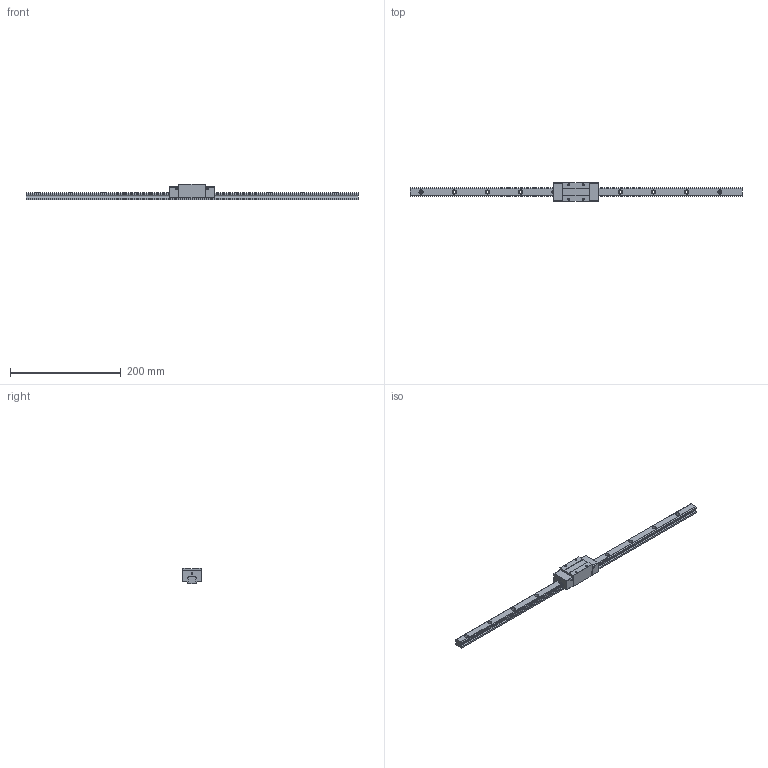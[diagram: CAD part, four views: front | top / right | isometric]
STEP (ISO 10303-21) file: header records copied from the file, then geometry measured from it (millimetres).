
FILE_DESCRIPTION (( 'STEP AP203' ), '1' );
FILE_NAME ('TRH15VL-DU.STEP', '2024-07-10T06:49:31', ( '' ), ( '' ), 'SwSTEP 2.0', 'SolidWorks 2022', '' );
FILE_SCHEMA (( 'CONFIG_CONTROL_DESIGN' ));
Length unit declared in the file: millimetre
Products named in the file (1): TRH15VL-DU
Bounding box: 600 x 34 x 28 mm (x, y, z)
Volume: 152281.4 mm3; surface area: 49978.1 mm2
Topology: 2 solids, 2 shells, 200 faces, 520 edges, 336 vertices
Faces by surface type: cylinder 96, plane 88, cone 16
Entity records: 6223 total; most frequent: DIRECTION 1114, CARTESIAN_POINT 1049, ORIENTED_EDGE 1024, EDGE_CURVE 512, AXIS2_PLACEMENT_3D 401, VERTEX_POINT 336, VECTOR 312, LINE 312
